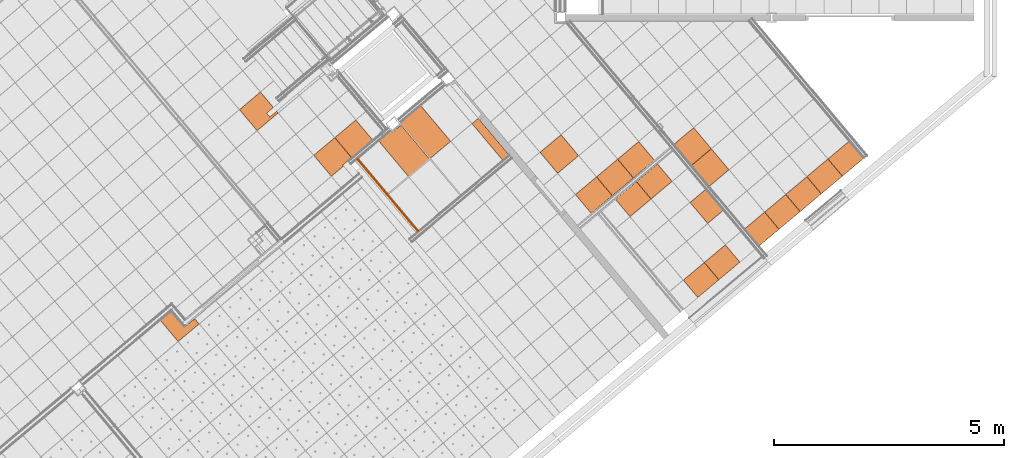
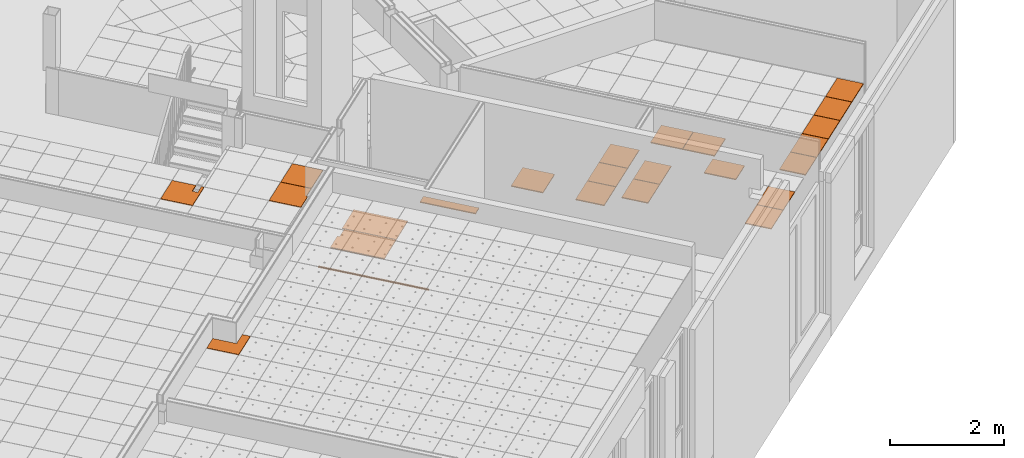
# One storey, part 316 of 338: 27 proxies, 6 elements without a shape of their own.
"""IFC2X3 building model written with IfcOpenShell, lengths in millimetres."""

from ifc_helpers import new_model, entity, si_unit, converted_unit, derived_unit, money_unit, direction, frame, origin_with_axes, place, context, subcontext, project, spatial, faceted_brep, material, type_object, element, aggregate, save


model = new_model("IFC2X3")

# Units and contexts
model_context = context("Model", 3, precision=0.01, world=origin_with_axes(), true_north=direction((0.0, 1.0)))
plan_context = context("Plan", 3, precision=0.01, world=origin_with_axes(), true_north=direction((0.0, 1.0)))
body_context = subcontext(model_context, "Body", "Model", "MODEL_VIEW")
ifc_project = project(units=[si_unit("LENGTHUNIT", "METRE", prefix="MILLI"), si_unit("AREAUNIT", "SQUARE_METRE"), si_unit("VOLUMEUNIT", "CUBIC_METRE"), converted_unit("PLANEANGLEUNIT", "DEGREE", entity("IfcPlaneAngleMeasure", 0.0174532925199), si_unit("PLANEANGLEUNIT", "RADIAN"), dimensions=[0, 0, 0, 0, 0, 0, 0]), money_unit("EUR"), converted_unit("TIMEUNIT", "Year", entity("IfcTimeMeasure", 31556926.0), si_unit("TIMEUNIT", "SECOND"), dimensions=[0, 0, 1, 0, 0, 0, 0]), si_unit("MASSUNIT", "GRAM", prefix="KILO"), si_unit("THERMODYNAMICTEMPERATUREUNIT", "DEGREE_CELSIUS"), si_unit("LUMINOUSINTENSITYUNIT", "LUMEN"), si_unit("ENERGYUNIT", "JOULE", prefix="MEGA"), derived_unit("THERMALCONDUCTANCEUNIT", [(si_unit("POWERUNIT", "WATT"), 1), (si_unit("LENGTHUNIT", "METRE"), -1), (si_unit("THERMODYNAMICTEMPERATUREUNIT", "KELVIN"), -1)]), derived_unit("SPECIFICHEATCAPACITYUNIT", [(si_unit("ENERGYUNIT", "JOULE"), 1), (si_unit("MASSUNIT", "GRAM", prefix="KILO"), -1), (si_unit("THERMODYNAMICTEMPERATUREUNIT", "KELVIN"), -1)]), derived_unit("MASSDENSITYUNIT", [(si_unit("MASSUNIT", "GRAM", prefix="KILO"), 1), (si_unit("VOLUMEUNIT", "CUBIC_METRE"), -1)])], contexts=[model_context, plan_context])

# Site, building, storey
site_placement = place(None, origin_with_axes())
site = spatial("IfcSite", under=ifc_project, at=site_placement, Name="Fortuinstraat Woensdrecht", CompositionType="ELEMENT")
building_placement = place(site_placement, origin_with_axes())
building = spatial("IfcBuilding", under=site, at=building_placement, Name="IKC Fortuna", CompositionType="ELEMENT")
storey_placement = place(building_placement, origin_with_axes())
storey = spatial("IfcBuildingStorey", under=building, at=storey_placement, Name="00 begane grond", CompositionType="ELEMENT", Elevation=0.0)

# Covering, proxy
covering_type = type_object("IfcCoveringType", Name="Curtain Wall Type", PredefinedType="CEILING")
covering_1_placement = place(storey_placement, frame((26804.4884552, -1724.43837499, 3010.0), z_axis=(0.0, 0.0, 1.0), x_axis=(1.0, 0.0, 0.0)))
covering_1 = element("IfcCovering", 1, at=covering_1_placement, inside=storey, type_object=covering_type, Name="45_Plafondafwerking_P04", PredefinedType="CEILING")
ifc_material = material(Name="Gipsplaat")
building_element_proxy_type_1 = type_object("IfcBuildingElementProxyType", Name="Distinct Panel 600 x 600 x 20", PredefinedType="NOTDEFINED")
proxy_1_placement = place(covering_1_placement, frame((-1211.30741852, 510.14594999, 0.0), z_axis=(0.0, 0.0, 1.0), x_axis=(1.0, 0.0, 0.0)))
proxy_1 = element("IfcBuildingElementProxy", 2, at=proxy_1_placement, type_object=building_element_proxy_type_1, material=ifc_material, Name="__Panel-D", context=body_context, shape_type="Brep", body=[
    faceted_brep([(36.6689780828, 419.127524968, -10.0), (-419.127524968, 36.6689781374, -10.0), (-419.127524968, 36.6689781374, 9.99999999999), (36.6689780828, 419.127524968, 9.99999999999), (419.127524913, -36.6689655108, -10.0), (-36.6689655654, -419.127524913, -10.0), (-36.6689655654, -419.127524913, 9.99999999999), (419.127524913, -36.6689655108, 9.99999999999)], [[[0, 1, 2, 3]], [[0, 4, 5, 1]], [[1, 5, 6, 2]], [[3, 2, 6, 7]], [[4, 0, 3, 7]], [[5, 4, 7, 6]]]),
])

# Covering, proxies
covering_2_placement = place(storey_placement, frame((27661.2988988, -1812.1109843, 2810.0), z_axis=(0.0, 0.0, 1.0), x_axis=(1.0, 0.0, 0.0)))
covering_2 = element("IfcCovering", 3, at=covering_2_placement, inside=storey, type_object=covering_type, Name="45_Plafondafwerking_P02 gec", PredefinedType="CEILING")
building_element_proxy_type_2 = type_object("IfcBuildingElementProxyType", Name="Distinct Panel 450 x 600 x 20", PredefinedType="NOTDEFINED")
proxy_2_placement = place(covering_2_placement, frame((1140.40852711, -542.34481856, 0.0), z_axis=(0.0, 0.0, 1.0), x_axis=(1.0, 0.0, 0.0)))
proxy_2 = element("IfcBuildingElementProxy", 4, at=proxy_2_placement, type_object=building_element_proxy_type_2, material=ifc_material, Name="__Panel-D", context=body_context, shape_type="Brep", body=[
    faceted_brep([(-20.791453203, 370.912614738, -10.0), (-20.791453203, 370.912614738, 9.99999999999), (361.667247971, -84.8837616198, 9.99999999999), (361.667247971, -84.8837616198, -10.0), (-361.667257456, 84.8837692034, -10.0), (-361.667257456, 84.8837692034, 9.99999999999), (20.7914437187, -370.91261829, 9.99999999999), (20.7914437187, -370.91261829, -10.0)], [[[0, 1, 2, 3]], [[4, 5, 1, 0]], [[1, 5, 6, 2]], [[3, 2, 6, 7]], [[0, 3, 7, 4]], [[7, 6, 5, 4]]]),
])
building_element_proxy_type_3 = type_object("IfcBuildingElementProxyType", Name="Distinct Panel 600 x 497 x 20", PredefinedType="NOTDEFINED")
proxy_3_placement = place(covering_2_placement, origin_with_axes())
proxy_3 = element("IfcBuildingElementProxy", 5, at=proxy_3_placement, type_object=building_element_proxy_type_3, material=ifc_material, Name="__Panel-D", context=body_context, shape_type="Brep", body=[
    faceted_brep([(69.771911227, 379.676867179, -10.0), (69.771911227, 379.676867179, 9.99999999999), (386.024475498, 2.78183639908, 9.99999999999), (386.024475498, 2.78183639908, -10.0), (-386.024487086, -2.78183623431, -10.0), (-386.024487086, -2.78183623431, 9.99999999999), (-69.7719112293, -379.676855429, 9.99999999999), (-69.7719112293, -379.676855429, -10.0)], [[[0, 1, 2, 3]], [[4, 5, 1, 0]], [[1, 5, 6, 2]], [[3, 2, 6, 7]], [[0, 3, 7, 4]], [[7, 6, 5, 4]]]),
])
proxy_4_placement = place(covering_2_placement, frame((-459.626606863, -385.672636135, 0.0), z_axis=(0.0, 0.0, 1.0), x_axis=(1.0, 0.0, 0.0)))
proxy_4 = element("IfcBuildingElementProxy", 6, at=proxy_4_placement, type_object=building_element_proxy_type_3, material=ifc_material, Name="__Panel-D", context=body_context, shape_type="Brep", body=[
    faceted_brep([(69.7719116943, 379.676853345, -10.0), (69.7719116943, 379.676853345, 9.99999999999), (386.024475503, 2.78183470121, 9.99999999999), (386.024475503, 2.78183470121, -10.0), (-386.024485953, -2.78183792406, -10.0), (-386.024485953, -2.78183792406, 9.99999999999), (-69.7719105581, -379.676856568, 9.99999999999), (-69.7719105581, -379.676856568, -10.0)], [[[0, 1, 2, 3]], [[4, 5, 1, 0]], [[1, 5, 6, 2]], [[3, 2, 6, 7]], [[0, 3, 7, 4]], [[7, 6, 5, 4]]]),
])
proxy_5_placement = place(covering_2_placement, frame((1476.48441919, -1759.60506423, 0.0), z_axis=(0.0, 0.0, 1.0), x_axis=(1.0, 0.0, 0.0)))
proxy_5 = element("IfcBuildingElementProxy", 7, at=proxy_5_placement, type_object=building_element_proxy_type_3, material=ifc_material, Name="__Panel-D", context=body_context, shape_type="Brep", body=[
    faceted_brep([(69.7719116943, 379.676853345, -10.0), (69.7719116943, 379.676853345, 9.99999999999), (386.024475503, 2.7818347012, 9.99999999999), (386.024475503, 2.7818347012, -10.0), (-386.024485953, -2.78183792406, -10.0), (-386.024485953, -2.78183792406, 9.99999999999), (-69.7719105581, -379.676856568, 9.99999999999), (-69.7719105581, -379.676856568, -10.0)], [[[0, 1, 2, 3]], [[4, 5, 1, 0]], [[1, 5, 6, 2]], [[3, 2, 6, 7]], [[0, 3, 7, 4]], [[7, 6, 5, 4]]]),
])
proxy_6_placement = place(covering_2_placement, frame((1016.85781233, -2145.27770037, 0.0), z_axis=(0.0, 0.0, 1.0), x_axis=(1.0, 0.0, 0.0)))
proxy_6 = element("IfcBuildingElementProxy", 8, at=proxy_6_placement, type_object=building_element_proxy_type_3, material=ifc_material, Name="__Panel-D", context=body_context, shape_type="Brep", body=[
    faceted_brep([(69.771911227, 379.676867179, -10.0), (69.771911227, 379.676867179, 9.99999999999), (386.024475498, 2.78183639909, 9.99999999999), (386.024475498, 2.78183639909, -10.0), (-386.024487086, -2.78183623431, -10.0), (-386.024487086, -2.78183623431, 9.99999999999), (-69.7719112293, -379.676855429, 9.99999999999), (-69.7719112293, -379.676855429, -10.0)], [[[0, 1, 2, 3]], [[4, 5, 1, 0]], [[1, 5, 6, 2]], [[3, 2, 6, 7]], [[0, 3, 7, 4]], [[7, 6, 5, 4]]]),
])
aggregate(covering_2, [proxy_3, proxy_2, proxy_4, proxy_5, proxy_6])

covering_3_placement = place(storey_placement, frame((30245.4600673, -364.084118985, 2810.0), z_axis=(0.0, 0.0, 1.0), x_axis=(1.0, 0.0, 0.0)))
covering_3 = element("IfcCovering", 9, at=covering_3_placement, inside=storey, type_object=covering_type, Name="45_Plafondafwerking_P02", PredefinedType="CEILING")
building_element_proxy_type_4 = type_object("IfcBuildingElementProxyType", Name="Distinct Panel 560 x 600 x 20", PredefinedType="NOTDEFINED")
proxy_7_placement = place(covering_3_placement, frame((-1749.37599867, -684.653939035, 0.0), z_axis=(0.0, 0.0, 1.0), x_axis=(1.0, 0.0, 0.0)))
proxy_7 = element("IfcBuildingElementProxy", 10, at=proxy_7_placement, type_object=building_element_proxy_type_4, material=ifc_material, Name="__Panel-D", context=body_context, shape_type="Brep", body=[
    faceted_brep([(21.4920517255, 406.392253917, -10.0), (-403.950449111, 49.4043675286, -10.0), (-403.950449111, 49.4043675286, 9.99999999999), (21.4920517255, 406.392253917, 9.99999999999), (403.950186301, -49.4045881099, -10.0), (-21.4918024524, -406.392047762, -10.0), (-21.4918024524, -406.392047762, 9.99999999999), (403.950186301, -49.4045881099, 9.99999999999)], [[[0, 1, 2, 3]], [[0, 4, 5, 1]], [[1, 5, 6, 2]], [[3, 2, 6, 7]], [[4, 0, 3, 7]], [[5, 4, 7, 6]]]),
])
proxy_8_placement = place(covering_3_placement, frame((-1363.70366079, -1144.28079616, 0.0), z_axis=(0.0, 0.0, 1.0), x_axis=(1.0, 0.0, 0.0)))
proxy_8 = element("IfcBuildingElementProxy", 11, at=proxy_8_placement, type_object=building_element_proxy_type_4, material=ifc_material, Name="__Panel-D", context=body_context, shape_type="Brep", body=[
    faceted_brep([(21.4918024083, 406.392041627, -10.0), (-403.95019576, 49.40458557, -10.0), (-403.95019576, 49.40458557, 9.99999999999), (21.4918024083, 406.392041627, 9.99999999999), (403.949944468, -49.4047939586, -10.0), (-21.4915416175, -406.391835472, -10.0), (-21.4915416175, -406.391835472, 9.99999999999), (403.949944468, -49.4047939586, 9.99999999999)], [[[0, 1, 2, 3]], [[0, 4, 5, 1]], [[1, 5, 6, 2]], [[3, 2, 6, 7]], [[4, 0, 3, 7]], [[5, 4, 7, 6]]]),
])
building_element_proxy_type_5 = type_object("IfcBuildingElementProxyType", Name="Distinct Panel 600 x 494 x 20", PredefinedType="NOTDEFINED")
proxy_9_placement = place(covering_3_placement, frame((203.594950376, -2109.50646228, 0.0), z_axis=(0.0, 0.0, 1.0), x_axis=(1.0, 0.0, 0.0)))
proxy_9 = element("IfcBuildingElementProxy", 12, at=proxy_9_placement, type_object=building_element_proxy_type_5, material=ifc_material, Name="__Panel-D", context=body_context, shape_type="Brep", body=[
    faceted_brep([(70.8365068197, 378.40858125, -10.0), (-384.960343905, -4.04956453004, -10.0), (-384.960343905, -4.04956453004, 9.99999999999), (70.8365068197, 378.40858125, 9.99999999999), (384.960347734, 4.04957510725, -10.0), (-70.8364914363, -378.408570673, -10.0), (-70.8364914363, -378.408570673, 9.99999999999), (384.960347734, 4.04957510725, 9.99999999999)], [[[0, 1, 2, 3]], [[0, 4, 5, 1]], [[1, 5, 6, 2]], [[3, 2, 6, 7]], [[4, 0, 3, 7]], [[5, 4, 7, 6]]]),
])
proxy_10_placement = place(covering_3_placement, frame((1122.84909289, -1338.16229689, 0.0), z_axis=(0.0, 0.0, 1.0), x_axis=(1.0, 0.0, 0.0)))
proxy_10 = element("IfcBuildingElementProxy", 13, at=proxy_10_placement, type_object=building_element_proxy_type_5, material=ifc_material, Name="__Panel-D", context=body_context, shape_type="Brep", body=[
    faceted_brep([(70.83650299, 378.40858125, -10.0), (-384.960347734, -4.04956453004, -10.0), (-384.960347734, -4.04956453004, 9.99999999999), (70.83650299, 378.40858125, 9.99999999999), (384.960343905, 4.04957510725, -10.0), (-70.8364952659, -378.408582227, -10.0), (-70.8364952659, -378.408582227, 9.99999999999), (384.960343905, 4.04957510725, 9.99999999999)], [[[0, 1, 2, 3]], [[0, 4, 5, 1]], [[1, 5, 6, 2]], [[3, 2, 6, 7]], [[4, 0, 3, 7]], [[5, 4, 7, 6]]]),
])
proxy_11_placement = place(covering_3_placement, frame((663.222021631, -1723.83437959, 0.0), z_axis=(0.0, 0.0, 1.0), x_axis=(1.0, 0.0, 0.0)))
proxy_11 = element("IfcBuildingElementProxy", 14, at=proxy_11_placement, type_object=building_element_proxy_type_5, material=ifc_material, Name="__Panel-D", context=body_context, shape_type="Brep", body=[
    faceted_brep([(70.83650299, 378.408588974, -10.0), (-384.960347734, -4.04956835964, -10.0), (-384.960347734, -4.04956835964, 9.99999999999), (70.83650299, 378.408588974, 9.99999999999), (384.960355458, 4.04958283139, -10.0), (-70.8364952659, -378.408574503, -10.0), (-70.8364952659, -378.408574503, 9.99999999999), (384.960355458, 4.04958283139, 9.99999999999)], [[[0, 1, 2, 3]], [[0, 4, 5, 1]], [[1, 5, 6, 2]], [[3, 2, 6, 7]], [[4, 0, 3, 7]], [[5, 4, 7, 6]]]),
])
proxy_12_placement = place(covering_3_placement, frame((1582.47616414, -952.4902142, 0.0), z_axis=(0.0, 0.0, 1.0), x_axis=(1.0, 0.0, 0.0)))
proxy_12 = element("IfcBuildingElementProxy", 15, at=proxy_12_placement, type_object=building_element_proxy_type_5, material=ifc_material, Name="__Panel-D", context=body_context, shape_type="Brep", body=[
    faceted_brep([(70.8365029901, 378.408588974, -10.0), (-384.960347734, -4.04956835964, -10.0), (-384.960347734, -4.04956835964, 9.99999999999), (70.8365029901, 378.408588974, 9.99999999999), (384.960355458, 4.04958283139, -10.0), (-70.8364952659, -378.408574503, -10.0), (-70.8364952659, -378.408574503, 9.99999999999), (384.960355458, 4.04958283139, 9.99999999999)], [[[0, 1, 2, 3]], [[0, 4, 5, 1]], [[1, 5, 6, 2]], [[3, 2, 6, 7]], [[4, 0, 3, 7]], [[5, 4, 7, 6]]]),
])
building_element_proxy_type_6 = type_object("IfcBuildingElementProxyType", Name="Distinct Panel 560 x 494 x 20", PredefinedType="NOTDEFINED")
proxy_13_placement = place(covering_3_placement, frame((-240.853872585, -2482.44250962, 0.0), z_axis=(0.0, 0.0, 1.0), x_axis=(1.0, 0.0, 0.0)))
proxy_13 = element("IfcBuildingElementProxy", 16, at=proxy_13_placement, type_object=building_element_proxy_type_6, material=ifc_material, Name="__Panel-D", context=body_context, shape_type="Brep", body=[
    faceted_brep([(55.6582563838, 365.672540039, -10.0), (-369.782278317, 8.68630666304, -10.0), (-369.782278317, 8.68630666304, 9.99999999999), (55.6582563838, 365.672540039, 9.99999999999), (369.782088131, -8.68647245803, -10.0), (-55.6580691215, -365.672394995, -10.0), (-55.6580691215, -365.672394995, 9.99999999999), (369.782088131, -8.68647245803, 9.99999999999)], [[[0, 1, 2, 3]], [[0, 4, 5, 1]], [[1, 5, 6, 2]], [[3, 2, 6, 7]], [[4, 0, 3, 7]], [[5, 4, 7, 6]]]),
])
aggregate(covering_3, [proxy_7, proxy_9, proxy_10, proxy_11, proxy_8, proxy_13, proxy_12])

# Proxy
building_element_proxy_type_7 = type_object("IfcBuildingElementProxyType", Name="Distinct Panel 600 x 539 x 20", PredefinedType="NOTDEFINED")
proxy_14_placement = place(covering_1_placement, origin_with_axes())
proxy_14 = element("IfcBuildingElementProxy", 17, at=proxy_14_placement, type_object=building_element_proxy_type_7, material=ifc_material, Name="__Panel-D", context=body_context, shape_type="Brep", body=[
    faceted_brep([(56.3332435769, 395.692551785, -10.0), (-399.463261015, 13.2340028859, -10.0), (-399.463261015, 13.2340028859, 9.99999999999), (56.3332435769, 395.692551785, 9.99999999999), (399.463219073, -13.2339665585, -10.0), (-56.3332735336, -395.692515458, -10.0), (-56.3332735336, -395.692515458, 9.99999999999), (399.463219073, -13.2339665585, 9.99999999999)], [[[0, 1, 2, 3]], [[0, 4, 5, 1]], [[1, 5, 6, 2]], [[3, 2, 6, 7]], [[4, 0, 3, 7]], [[5, 4, 7, 6]]]),
])

proxy_15_placement = place(covering_1_placement, frame((459.62672488, 385.672495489, 0.0), z_axis=(0.0, 0.0, 1.0), x_axis=(1.0, 0.0, 0.0)))
proxy_15 = element("IfcBuildingElementProxy", 18, at=proxy_15_placement, type_object=building_element_proxy_type_7, material=ifc_material, Name="__Panel-D", context=body_context, shape_type="Brep", body=[
    faceted_brep([(56.3332473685, 395.692555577, -10.0), (-399.463257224, 13.2339946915, -10.0), (-399.463257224, 13.2339946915, 9.99999999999), (56.3332473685, 395.692555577, 9.99999999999), (399.46323485, -13.233962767, -10.0), (-56.333269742, -395.692511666, -10.0), (-56.333269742, -395.692511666, 9.99999999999), (399.46323485, -13.233962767, 9.99999999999)], [[[0, 1, 2, 3]], [[0, 4, 5, 1]], [[1, 5, 6, 2]], [[3, 2, 6, 7]], [[4, 0, 3, 7]], [[5, 4, 7, 6]]]),
])

proxy_16_placement = place(covering_1_placement, frame((-459.62672488, -385.672495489, 0.0), z_axis=(0.0, 0.0, 1.0), x_axis=(1.0, 0.0, 0.0)))
proxy_16 = element("IfcBuildingElementProxy", 19, at=proxy_16_placement, type_object=building_element_proxy_type_7, material=ifc_material, Name="__Panel-D", context=body_context, shape_type="Brep", body=[
    faceted_brep([(56.3332473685, 395.692551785, -10.0), (-399.463245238, 13.2340028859, -10.0), (-399.463245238, 13.2340028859, 9.99999999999), (56.3332473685, 395.692551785, 9.99999999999), (399.46323485, -13.2339665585, -10.0), (-56.333269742, -395.692515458, -10.0), (-56.333269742, -395.692515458, 9.99999999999), (399.46323485, -13.2339665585, 9.99999999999)], [[[0, 1, 2, 3]], [[0, 4, 5, 1]], [[1, 5, 6, 2]], [[3, 2, 6, 7]], [[4, 0, 3, 7]], [[5, 4, 7, 6]]]),
])

aggregate(covering_1, [proxy_14, proxy_1, proxy_15, proxy_16])

# Covering, proxies
covering_4_placement = place(storey_placement, frame((21527.1932838, -1706.9023883, 2770.0), z_axis=(0.0, 0.0, 1.0), x_axis=(1.0, 0.0, 0.0)))
covering_4 = element("IfcCovering", 20, at=covering_4_placement, inside=storey, type_object=covering_type, Name="45_Plafondafwerking_P02a", PredefinedType="CEILING")
building_element_proxy_type_8 = type_object("IfcBuildingElementProxyType", Name="Distinct Panel 33 x 1012 x 20", PredefinedType="NOTDEFINED")
proxy_17_placement = place(covering_4_placement, origin_with_axes())
proxy_17 = element("IfcBuildingElementProxy", 21, at=proxy_17_placement, type_object=building_element_proxy_type_8, material=ifc_material, Name="__Panel-D", context=body_context, shape_type="Brep", body=[
    faceted_brep([(-312.990525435, 394.61507572, 10.0), (-312.990525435, 394.61507572, -10.0), (-334.2699335, 376.759654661, -10.0), (-334.2699335, 376.759654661, 10.0), (334.269900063, -376.759621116, 10.0), (334.269900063, -376.759621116, -10.0), (312.990551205, -394.615113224, -10.0), (312.990551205, -394.615113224, 10.0)], [[[0, 1, 2, 3]], [[4, 5, 1, 0]], [[1, 5, 6, 2]], [[3, 2, 6, 7]], [[0, 3, 7, 4]], [[7, 6, 5, 4]]]),
])
building_element_proxy_type_9 = type_object("IfcBuildingElementProxyType", Name="Distinct Panel 33 x 1042 x 20", PredefinedType="NOTDEFINED")
proxy_18_placement = place(covering_4_placement, frame((660.034922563, -786.598741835, 0.0), z_axis=(0.0, 0.0, 1.0), x_axis=(1.0, 0.0, 0.0)))
proxy_18 = element("IfcBuildingElementProxy", 22, at=proxy_18_placement, type_object=building_element_proxy_type_9, material=ifc_material, Name="__Panel-D", context=body_context, shape_type="Brep", body=[
    faceted_brep([(-322.551092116, 406.008906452, 10.0), (-322.551092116, 406.008906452, -10.0), (-343.830431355, 388.153413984, -10.0), (-343.830431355, 388.153413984, 10.0), (343.830433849, -388.15339971, 10.0), (343.830433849, -388.15339971, -10.0), (322.551070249, -406.008904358, -10.0), (322.551070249, -406.008904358, 10.0)], [[[0, 1, 2, 3]], [[4, 5, 1, 0]], [[1, 5, 6, 2]], [[3, 2, 6, 7]], [[0, 3, 7, 4]], [[7, 6, 5, 4]]]),
])
building_element_proxy_type_10 = type_object("IfcBuildingElementProxyType", Name="Distinct Panel 16 x 1012 x 20", PredefinedType="NOTDEFINED")
proxy_19_placement = place(covering_4_placement, frame((-6.5856948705, -5.52601510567, 0.119981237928), z_axis=(0.0, 0.0, 1.0), x_axis=(0.642787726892, -0.766044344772, 0.0)))
proxy_19 = element("IfcBuildingElementProxy", 23, at=proxy_19_placement, type_object=building_element_proxy_type_10, material=ifc_material, Name="__Panel-D", context=body_context, shape_type="Brep", body=[
    faceted_brep([(-503.4791988, 5.44637841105, -9.91732328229), (-503.4791988, 5.1384594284, 10.0803062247), (503.479186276, 5.13846311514, 10.0803062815), (503.479186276, 5.4463820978, -9.91732322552), (-503.479194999, -5.13844692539, -10.0803060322), (-503.479194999, -5.44636590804, 9.91732347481), (503.479190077, -5.44636222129, 9.91732353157), (503.479190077, -5.13844323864, -10.0803059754)], [[[0, 1, 2, 3]], [[4, 5, 1, 0]], [[1, 5, 6, 2]], [[3, 2, 6, 7]], [[0, 3, 7, 4]], [[7, 6, 5, 4]]]),
])
building_element_proxy_type_11 = type_object("IfcBuildingElementProxyType", Name="Distinct Panel 600 x 1012 x 20", PredefinedType="NOTDEFINED")
proxy_20_placement = place(covering_4_placement, frame((974.086655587, 1018.90021272, 21.8266409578), z_axis=(0.0, 0.0, 1.0), x_axis=(0.642787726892, -0.766044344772, 0.0)))
proxy_20 = element("IfcBuildingElementProxy", 24, at=proxy_20_placement, type_object=building_element_proxy_type_11, material=ifc_material, Name="__Panel-D", context=body_context, shape_type="Brep", body=[
    faceted_brep([(-349.087585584, 395.505911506, -3.91127468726), (-349.087585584, 395.197992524, 16.0863548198), (657.870958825, 395.197992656, 16.0863548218), (657.870958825, 395.505911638, -3.91127468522), (-349.087715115, -193.120756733, -12.9748151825), (-349.087715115, -193.428675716, 7.02281432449), (-306.28332699, -193.428679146, 7.02281427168), (-306.283331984, -199.731492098, 6.92576498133), (657.870959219, -199.731488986, 6.92576502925), (657.870959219, -199.423570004, -13.0718644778), (-306.283331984, -199.423573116, -13.0718645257), (-306.28332699, -193.120760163, -12.9748152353)], [[[0, 1, 2, 3]], [[4, 5, 1, 0]], [[1, 5, 6, 7, 8, 2]], [[3, 2, 8, 9]], [[0, 3, 9, 10, 11, 4]], [[11, 6, 5, 4]], [[10, 7, 6, 11]], [[9, 8, 7, 10]]]),
])
building_element_proxy_type_12 = type_object("IfcBuildingElementProxyType", Name="Distinct Panel 600 x 969 x 20", PredefinedType="NOTDEFINED")
proxy_21_placement = place(covering_4_placement, frame((605.152344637, 709.327497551, 14.4109253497), z_axis=(0.0, 0.0, 1.0), x_axis=(0.642787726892, -0.766044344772, 0.0)))
proxy_21 = element("IfcBuildingElementProxy", 25, at=proxy_21_placement, type_object=building_element_proxy_type_12, material=ifc_material, Name="__Panel-D", context=body_context, shape_type="Brep", body=[
    faceted_brep([(-306.283307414, 277.18660789, -5.73312860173), (-306.283307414, 276.878688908, 14.2645009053), (657.870979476, 276.878691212, 14.2645009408), (657.870979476, 277.186610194, -5.73312856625), (-306.28334503, 38.5184127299, -9.40808756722), (-306.28334503, 38.2104937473, 10.5895419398), (-349.087735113, 38.2105161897, 10.5895422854), (-349.087614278, -318.05081075, 5.10391083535), (657.87096396, -318.050791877, 5.10391112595), (657.87096396, -317.742872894, -14.8937183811), (-349.087614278, -317.742891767, -14.8937186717), (-349.087735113, 38.5184351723, -9.40808722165)], [[[0, 1, 2, 3]], [[4, 5, 1, 0]], [[1, 5, 6, 7, 8, 2]], [[3, 2, 8, 9]], [[0, 3, 9, 10, 11, 4]], [[11, 6, 5, 4]], [[10, 7, 6, 11]], [[9, 8, 7, 10]]]),
])
building_element_proxy_type_13 = type_object("IfcBuildingElementProxyType", Name="Distinct Panel 16 x 1042 x 20", PredefinedType="NOTDEFINED")
proxy_22_placement = place(covering_4_placement, frame((653.449191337, -792.124717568, 0.119981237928), z_axis=(0.0, 0.0, 1.0), x_axis=(0.642787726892, -0.766044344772, 0.0)))
proxy_22 = element("IfcBuildingElementProxy", 26, at=proxy_22_placement, type_object=building_element_proxy_type_13, material=ifc_material, Name="__Panel-D", context=body_context, shape_type="Brep", body=[
    faceted_brep([(-518.352623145, 5.44636996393, -9.91732341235), (-518.352623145, 5.13845098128, 10.0803060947), (518.352622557, 5.13845744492, 10.0803061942), (518.352622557, 5.44637642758, -9.91732331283), (-518.352615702, -5.13845743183, -10.080306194), (-518.352615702, -5.44637641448, 9.91732331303), (518.352622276, -5.44637915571, 9.91732327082), (518.352622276, -5.13846017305, -10.0803062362)], [[[0, 1, 2, 3]], [[4, 5, 1, 0]], [[1, 5, 6, 2]], [[3, 2, 6, 7]], [[0, 3, 7, 4]], [[7, 6, 5, 4]]]),
])
building_element_proxy_type_14 = type_object("IfcBuildingElementProxyType", Name="Distinct Panel 182 x 1042 x 20", PredefinedType="NOTDEFINED")
proxy_23_placement = place(covering_4_placement, frame((2567.60005806, 814.039063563, 38.5951203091), z_axis=(0.0, 0.0, 1.0), x_axis=(0.642787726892, -0.766044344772, 0.0)))
proxy_23 = element("IfcBuildingElementProxy", 27, at=proxy_23_placement, type_object=building_element_proxy_type_14, material=ifc_material, Name="__Panel-D", context=body_context, shape_type="Brep", body=[
    faceted_brep([(-518.352625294, 88.8934000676, -8.63242488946), (-518.352625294, 88.585481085, 11.3652046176), (518.352630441, 88.5854896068, 11.3652047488), (518.352630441, 88.8934085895, -8.63242475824), (-518.352618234, -88.5854911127, -11.365204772), (-518.352618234, -88.8934100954, 8.63242473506), (518.352618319, -88.8934032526, 8.63242484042), (518.352618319, -88.58548427, -11.3652046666)], [[[0, 1, 2, 3]], [[4, 5, 1, 0]], [[1, 5, 6, 2]], [[3, 2, 6, 7]], [[0, 3, 7, 4]], [[7, 6, 5, 4]]]),
])
aggregate(covering_4, [proxy_17, proxy_18, proxy_19, proxy_21, proxy_20, proxy_22, proxy_23])

# Covering, proxy
covering_5_placement = place(storey_placement, frame((19785.7448517, -11392.5753808, 4660.0), z_axis=(0.0, 0.0, 1.0), x_axis=(1.0, 0.0, 0.0)))
covering_5 = element("IfcCovering", 28, at=covering_5_placement, inside=storey, type_object=covering_type, Name="45_Plafondafwerking_P01", PredefinedType="CEILING")
building_element_proxy_type_15 = type_object("IfcBuildingElementProxyType", Name="311 x 600 x 20", PredefinedType="NOTDEFINED")
proxy_24_placement = place(covering_5_placement, frame((-2419.70440023, 6481.42847501, 1.59872115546e-10), z_axis=(0.0, 0.0, 1.0), x_axis=(1.0, 0.0, 0.0)))
proxy_24 = element("IfcBuildingElementProxy", 29, at=proxy_24_placement, type_object=building_element_proxy_type_15, material=ifc_material, Name="__600x613 Rockfon Krios", context=body_context, shape_type="Brep", body=[
    faceted_brep([(-218.34034689, 268.2446677, -10.0), (-453.132177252, 71.2308248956, -10.0), (-453.132177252, 71.2308248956, 9.99999999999), (-218.34034689, 268.2446677, 9.99999999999), (67.7011431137, -72.6461240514, -10.0), (288.705643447, 112.798782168, -10.0), (385.122902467, -2.10678191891, -10.0), (-70.6734407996, -384.565518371, -10.0), (-70.6734407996, -384.565518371, 9.99999999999), (385.122902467, -2.10678191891, 9.99999999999), (288.705643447, 112.798782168, 9.99999999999), (67.7011431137, -72.6461240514, 9.99999999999)], [[[0, 1, 2, 3]], [[0, 4, 5, 6, 7, 1]], [[1, 7, 8, 2]], [[3, 2, 8, 9, 10, 11]], [[4, 0, 3, 11]], [[5, 4, 11, 10]], [[6, 5, 10, 9]], [[7, 6, 9, 8]]]),
])
aggregate(covering_5, [proxy_24])

# Covering, proxies
covering_6_placement = place(storey_placement, frame((19821.8074512, -1204.73183435, 4460.0), z_axis=(0.0, 0.0, 1.0), x_axis=(1.0, 0.0, 0.0)))
covering_6 = element("IfcCovering", 30, at=covering_6_placement, inside=storey, type_object=covering_type, Name="45_Plafondafwerking_P04", PredefinedType="CEILING")
building_element_proxy_type_16 = type_object("IfcBuildingElementProxyType", Name="Distinct Panel 600 x 575 x 20", PredefinedType="NOTDEFINED")
proxy_25_placement = place(covering_6_placement, frame((1296.86093291, 321.33005617, 0.0), z_axis=(0.0, 0.0, 1.0), x_axis=(1.0, 0.0, 0.0)))
proxy_25 = element("IfcBuildingElementProxy", 31, at=proxy_25_placement, type_object=building_element_proxy_type_16, material=ifc_material, Name="__Panel-D", context=body_context, shape_type="Brep", body=[
    faceted_brep([(44.733755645, 409.516153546, -10.0), (44.733755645, 409.516153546, 9.99999999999), (411.062636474, -27.0574482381, 9.99999999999), (411.062636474, -27.0574482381, -10.0), (-411.062624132, 27.0574459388, -10.0), (-411.062624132, 27.0574459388, 9.99999999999), (-44.7337556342, -409.516155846, 9.99999999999), (-44.7337556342, -409.516155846, -10.0)], [[[0, 1, 2, 3]], [[4, 5, 1, 0]], [[1, 5, 6, 2]], [[3, 2, 6, 7]], [[0, 3, 7, 4]], [[7, 6, 5, 4]]]),
])
building_element_proxy_type_17 = type_object("IfcBuildingElementProxyType", Name="Distinct Panel 190 x 445 x 20", PredefinedType="NOTDEFINED")
proxy_26_placement = place(covering_6_placement, frame((-630.237318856, 910.547495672, 0.0), z_axis=(0.0, 0.0, 1.0), x_axis=(1.0, 0.0, 0.0)))
proxy_26 = element("IfcBuildingElementProxy", 32, at=proxy_26_placement, type_object=building_element_proxy_type_17, material=ifc_material, Name="__Panel-D", context=body_context, shape_type="Brep", body=[
    faceted_brep([(-104.439112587, 427.833254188, -10.0), (-104.439112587, 427.833254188, 9.99999999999), (178.222202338, 90.970750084, 9.99999999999), (178.222202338, 90.970750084, -10.0), (-560.235489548, 45.3745588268, -10.0), (-560.235489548, 45.3745588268, 9.99999999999), (-177.776806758, -410.421818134, 9.99999999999), (278.019582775, -27.9631353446, 9.99999999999), (245.714906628, 10.5360701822, 9.99999999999), (100.163493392, -111.596121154, 9.99999999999), (32.6707639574, -31.1614412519, 9.99999999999), (32.6707639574, -31.1614412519, -10.0), (100.163493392, -111.596121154, -10.0), (245.714906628, 10.5360701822, -10.0), (278.019582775, -27.9631353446, -10.0), (-177.776806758, -410.421818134, -10.0)], [[[0, 1, 2, 3]], [[4, 5, 1, 0]], [[1, 5, 6, 7, 8, 9, 10, 2]], [[3, 2, 10, 11]], [[0, 3, 11, 12, 13, 14, 15, 4]], [[15, 6, 5, 4]], [[14, 7, 6, 15]], [[13, 8, 7, 14]], [[12, 9, 8, 13]], [[11, 10, 9, 12]]]),
])
building_element_proxy_type_18 = type_object("IfcBuildingElementProxyType", Name="Distinct Panel 250 x 575 x 20", PredefinedType="NOTDEFINED")
proxy_27_placement = place(covering_6_placement, frame((916.969125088, -133.437418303, 0.0), z_axis=(0.0, 0.0, 1.0), x_axis=(1.0, 0.0, 0.0)))
proxy_27 = element("IfcBuildingElementProxy", 33, at=proxy_27_placement, type_object=building_element_proxy_type_18, material=ifc_material, Name="__Panel-D", context=body_context, shape_type="Brep", body=[
    faceted_brep([(-35.0010284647, 478.610983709, -10.0), (-35.0010284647, 478.610983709, 9.99999999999), (331.327820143, 42.0373808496, 9.99999999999), (331.327820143, 42.0373808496, -10.0), (-490.797417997, 96.1523009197, -10.0), (-490.797417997, 96.1523009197, 9.99999999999), (-108.338735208, -359.644088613, 9.99999999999), (155.947485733, -137.881561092, 9.99999999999), (139.817726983, -118.658711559, 9.99999999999), (139.817726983, -118.658711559, -10.0), (155.947485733, -137.881561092, -10.0), (-108.338735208, -359.644088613, -10.0)], [[[0, 1, 2, 3]], [[4, 5, 1, 0]], [[1, 5, 6, 7, 8, 2]], [[3, 2, 8, 9]], [[0, 3, 9, 10, 11, 4]], [[11, 6, 5, 4]], [[10, 7, 6, 11]], [[9, 8, 7, 10]]]),
])
aggregate(covering_6, [proxy_25, proxy_26, proxy_27])

save(model, "model.ifc")
